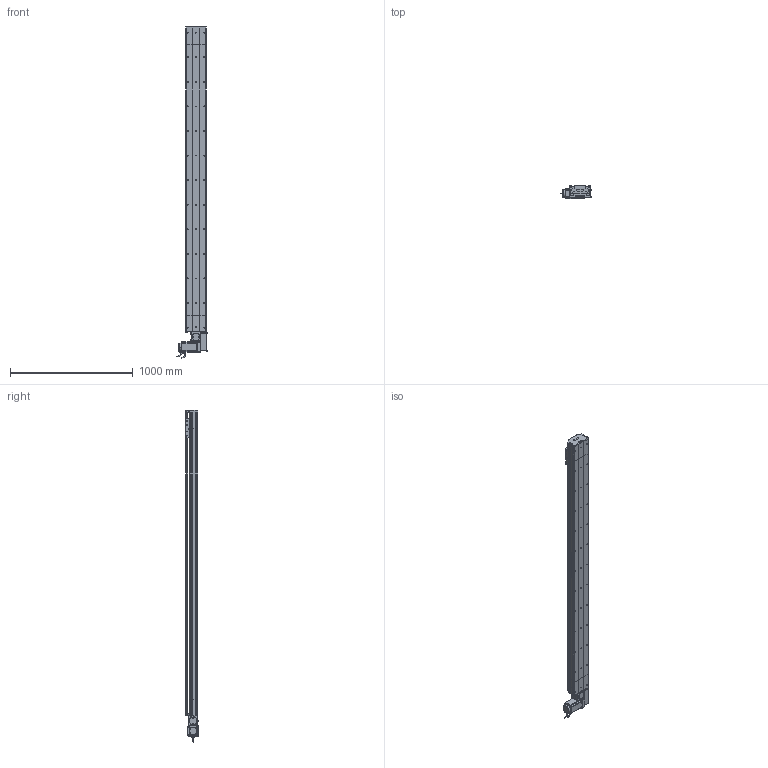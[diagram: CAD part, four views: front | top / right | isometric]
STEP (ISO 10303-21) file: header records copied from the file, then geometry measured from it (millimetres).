
FILE_DESCRIPTION (( 'STEP AP214' ), '1' );
FILE_NAME ('D17 TBH LH S2200.STEP', '2010-06-30T08:30:53', ( 'Christophe Gaillard' ), ( 'SGA' ), 'SwSTEP 2.0', 'SolidWorks 2010', '' );
FILE_SCHEMA (( 'AUTOMOTIVE_DESIGN' ));
Length unit declared in the file: millimetre
Products named in the file (40): Arbre+rail head D17B; vis M5 L5_Default; corpl head D17 _Default; Head LH D17B_Default; course 2200 D17B_Default; couvercle D17B head_Default; couvercle D17B course L2200_Default; corp D17B 2200_Default; Couroie+ rail D17 Course 2200 ; Couroie tail D17B_Default; poulie tail_Default; poulie head_Default; couvercle D17B_Default; plaque de  bout tail D17B_Default; Rail D17B; couroie head D17_Default; cache arbre D17_Default; tete d''axe poulie D17B; Renvoi LH_Default; Vis M5 L16-2_Default; vis M5 L8 90°_Default; avant 90BLDC125A-640; Moteur motionking 90BLDC125A-640; corpl tail D17B_Default; Tail D17B_Default; corps 90BLDC125A-640; vis M5 L16_Default; Plaque racord D17_Default; vis M5 L70_Default; codeur 90BLDC125-640; Conecteur_Default; Conecteur2_Default; D17 TBH LH S2200; chariot D17S_Default; Chariot D17; vis M5 L12_Default; guide D17; cache D17_Default; vis M5 L25_Default; plaque de  bout head D17B LH_Default
Assembly tree (70 placements, depth 4):
  D17 TBH LH S2200
    Tail D17B_Default
      vis M5 L8 90°_Default  x2
      vis M5 L25_Default  x2
      Rail D17B
      corpl tail D17B_Default
      vis M5 L12_Default  x4
      tete d''axe poulie D17B
      Couroie tail D17B_Default
      couvercle D17B_Default
      plaque de  bout tail D17B_Default
      poulie tail_Default
    course 2200 D17B_Default
      corp D17B 2200_Default
      Couroie+ rail D17 Course 2200 
      couvercle D17B course L2200_Default
    chariot D17S_Default
      vis M5 L12_Default  x4
      guide D17  x2
      Chariot D17
    Head LH D17B_Default
      Vis M5 L16-2_Default  x4
      vis M5 L12_Default  x8
      vis M5 L70_Default  x4
      Moteur motionking 90BLDC125A-640
        corps 90BLDC125A-640
        Conecteur_Default
        avant 90BLDC125A-640
        codeur 90BLDC125-640
        Conecteur2_Default
      vis M5 L16_Default  x2
      cache arbre D17_Default
      poulie head_Default
      vis M5 L25_Default  x2
      cache D17_Default  x2
      plaque de  bout head D17B LH_Default
      couvercle D17B head_Default
      vis M5 L5_Default  x4
      couroie head D17_Default
      Plaque racord D17_Default
      Arbre+rail head D17B
      corpl head D17 _Default
      Renvoi LH_Default
Bounding box: 245.2 x 105.65 x 2700.95 mm (x, y, z)
Volume: 15323428.8 mm3; surface area: 4416879.2 mm2
Topology: 94 solids, 94 shells, 2725 faces, 6909 edges, 4446 vertices
Faces by surface type: plane 1607, cylinder 805, bspline 136, cone 88, torus 85, sphere 4
Entity records: 85776 total; most frequent: CARTESIAN_POINT 25265, ORIENTED_EDGE 10590, DIRECTION 10044, EDGE_CURVE 5295, LINE 3486, VECTOR 3486, VERTEX_POINT 3470, AXIS2_PLACEMENT_3D 3279
